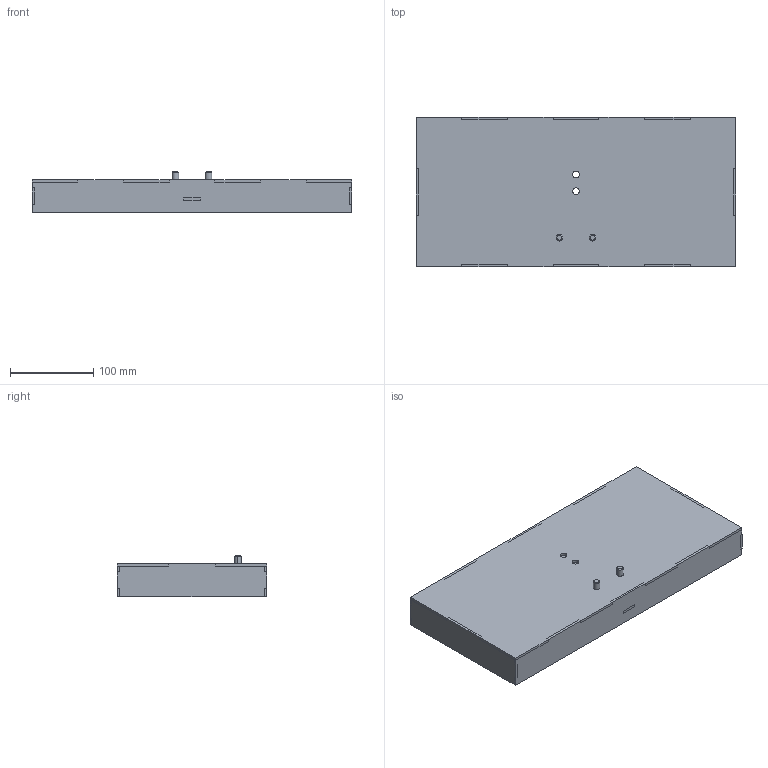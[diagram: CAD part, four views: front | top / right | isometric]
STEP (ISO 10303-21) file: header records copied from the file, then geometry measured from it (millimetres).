
FILE_DESCRIPTION (( 'STEP AP203' ), '1' );
FILE_NAME ('Structure support.STEP', '2025-09-18T11:52:57', ( '' ), ( '' ), 'SwSTEP 2.0', 'SolidWorks 2019', '' );
FILE_SCHEMA (( 'CONFIG_CONTROL_DESIGN' ));
Length unit declared in the file: millimetre
Products named in the file (6): Structure support renfort; Structure support; Structure support socle; Structure support coté 1; Structure support axe L35; Structure support coté 2
Assembly tree (8 placements, depth 2):
  Structure support
    Structure support socle
    Structure support coté 1  x2
    Structure support coté 2  x2
    Structure support renfort
    Structure support axe L35  x2
Bounding box: 385 x 180 x 50 mm (x, y, z)
Volume: 365584.1 mm3; surface area: 257041.2 mm2
Topology: 8 solids, 8 shells, 180 faces, 484 edges, 320 vertices
Faces by surface type: plane 152, cylinder 20, cone 8
Entity records: 4634 total; most frequent: CARTESIAN_POINT 697, ORIENTED_EDGE 676, DIRECTION 648, EDGE_CURVE 338, LINE 298, VECTOR 298, VERTEX_POINT 224, AXIS2_PLACEMENT_3D 175
